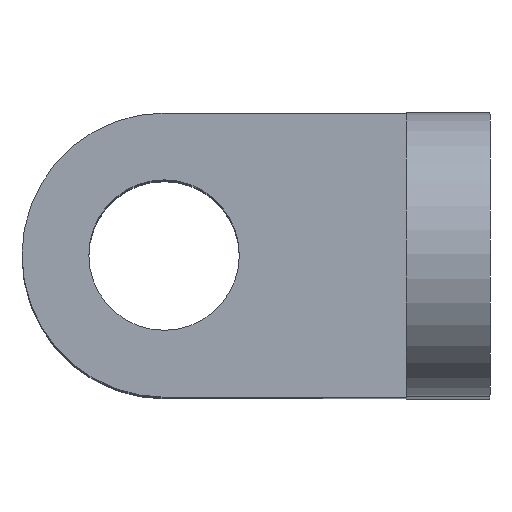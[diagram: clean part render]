
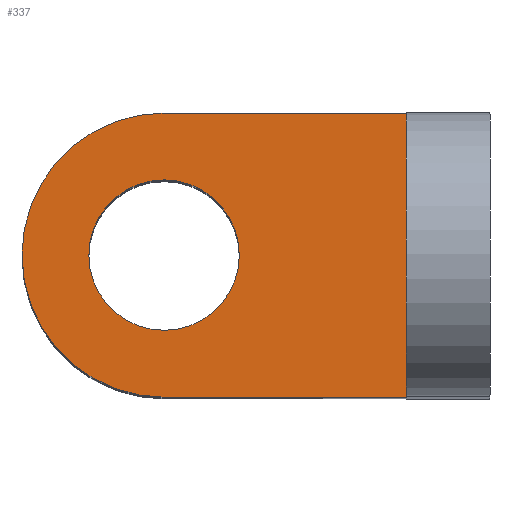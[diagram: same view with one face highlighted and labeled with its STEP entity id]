
A CAD part, top view. The second image highlights one B-rep face of the part: STEP entity #337.
In plain terms, the highlighted planar face has unit normal (0, 0, 1).
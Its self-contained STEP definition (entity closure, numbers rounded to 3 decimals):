
#29=FACE_BOUND('',#68,.T.);
#43=FACE_OUTER_BOUND('',#67,.T.);
#67=EDGE_LOOP('',(#271,#272,#273,#274));
#68=EDGE_LOOP('',(#275));
#91=LINE('',#507,#119);
#100=LINE('',#532,#128);
#102=LINE('',#541,#130);
#119=VECTOR('',#405,10.);
#128=VECTOR('',#426,10.);
#130=VECTOR('',#438,10.);
#147=CIRCLE('',#366,8.5);
#148=CIRCLE('',#367,4.5);
#164=VERTEX_POINT('',#504);
#165=VERTEX_POINT('',#506);
#175=VERTEX_POINT('',#530);
#177=VERTEX_POINT('',#540);
#178=VERTEX_POINT('',#543);
#198=EDGE_CURVE('',#165,#164,#91,.T.);
#211=EDGE_CURVE('',#164,#175,#100,.T.);
#214=EDGE_CURVE('',#177,#175,#102,.T.);
#215=EDGE_CURVE('',#165,#177,#147,.T.);
#216=EDGE_CURVE('',#178,#178,#148,.T.);
#271=ORIENTED_EDGE('',*,*,#211,.T.);
#272=ORIENTED_EDGE('',*,*,#214,.F.);
#273=ORIENTED_EDGE('',*,*,#215,.F.);
#274=ORIENTED_EDGE('',*,*,#198,.T.);
#275=ORIENTED_EDGE('',*,*,#216,.T.);
#323=PLANE('',#365);
#337=ADVANCED_FACE('',(#43,#29),#323,.T.);
#365=AXIS2_PLACEMENT_3D('',#539,#436,#437);
#366=AXIS2_PLACEMENT_3D('',#542,#439,#440);
#367=AXIS2_PLACEMENT_3D('',#544,#441,#442);
#405=DIRECTION('',(1.,0.,0.));
#426=DIRECTION('',(0.,1.,0.));
#436=DIRECTION('center_axis',(0.,0.,1.));
#437=DIRECTION('ref_axis',(1.,0.,0.));
#438=DIRECTION('',(1.,0.,0.));
#439=DIRECTION('center_axis',(0.,0.,-1.));
#440=DIRECTION('ref_axis',(-0.707,0.707,0.));
#441=DIRECTION('center_axis',(0.,0.,-1.));
#442=DIRECTION('ref_axis',(1.,0.,0.));
#504=CARTESIAN_POINT('',(23.,0.,0.));
#506=CARTESIAN_POINT('',(8.5,0.,0.));
#507=CARTESIAN_POINT('',(0.,0.,0.));
#530=CARTESIAN_POINT('',(23.,17.,0.));
#532=CARTESIAN_POINT('',(23.,0.,0.));
#539=CARTESIAN_POINT('Origin',(0.,0.,0.));
#540=CARTESIAN_POINT('',(8.5,17.,0.));
#541=CARTESIAN_POINT('',(0.,17.,0.));
#542=CARTESIAN_POINT('Origin',(8.5,8.5,0.));
#543=CARTESIAN_POINT('',(4.,8.5,0.));
#544=CARTESIAN_POINT('Origin',(8.5,8.5,0.));
